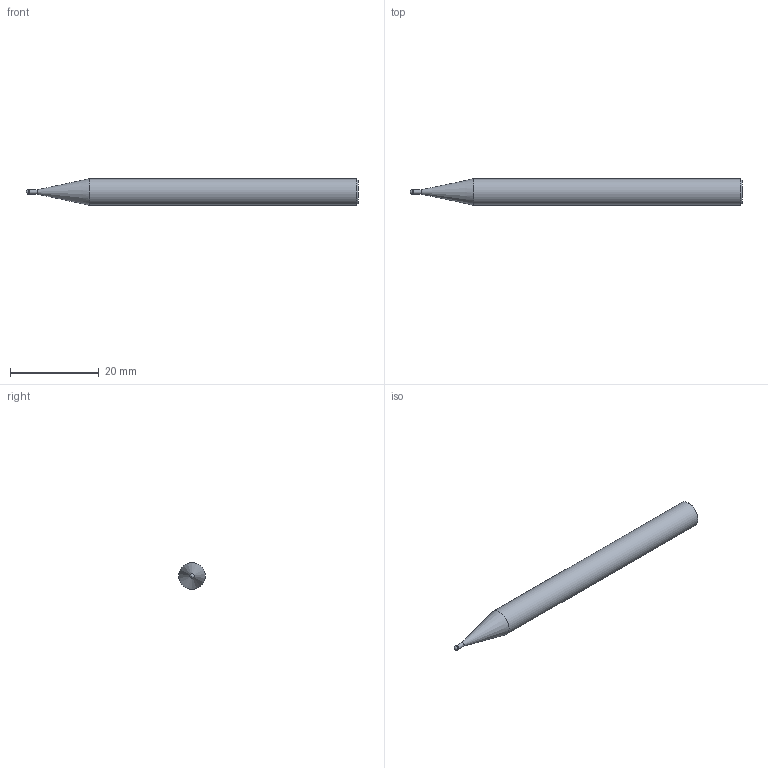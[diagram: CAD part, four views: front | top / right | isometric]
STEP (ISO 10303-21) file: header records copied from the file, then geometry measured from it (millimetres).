
FILE_DESCRIPTION(/* description */ (''),/* implementation_level */ '2;1');
FILE_NAME(/* name */ 'HSXB2010 0675.stp',/* time_stamp */ '2026-08-01T14:45:50+08:00',/* author */ (''),/* organization */ (''),/* preprocessor_version */ 'ST-DEVELOPER v16',/* originating_system */ 'SIEMENS PLM Software NX 10.0',/* authorisation */ '');
FILE_SCHEMA (('CONFIG_CONTROL_DESIGN'));
Length unit declared in the file: millimetre
Products named in the file (1): HSXB2010 0675_dxf
Bounding box: 75 x 6 x 6 mm (x, y, z)
Volume: 1847.4 mm3; surface area: 1309.2 mm2
Topology: 2 solids, 2 shells, 9 faces, 15 edges, 9 vertices
Faces by surface type: plane 3, cylinder 3, cone 2, sphere 1
Full cylindrical faces by diameter (mm): 0.95 x1, 1 x1, 6 x1
Entity records: 246 total; most frequent: DIRECTION 34, CARTESIAN_POINT 24, AXIS2_PLACEMENT_3D 17, EDGE_LOOP 14, ORIENTED_EDGE 14, FACE_BOUND 10, ADVANCED_FACE 9, PERSON_AND_ORGANIZATION 7
